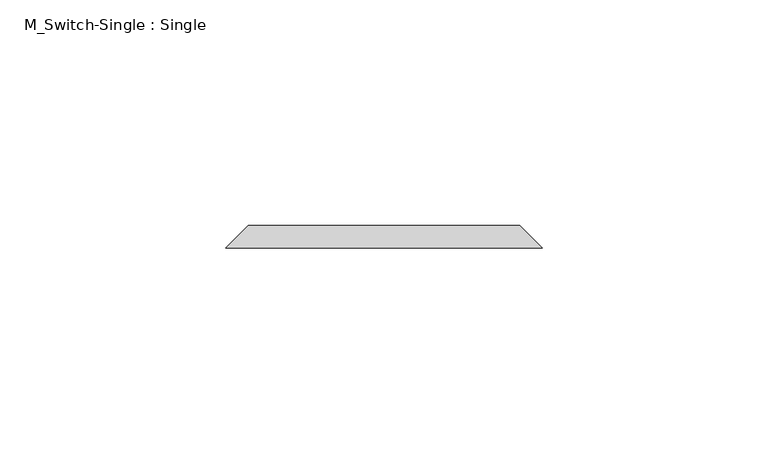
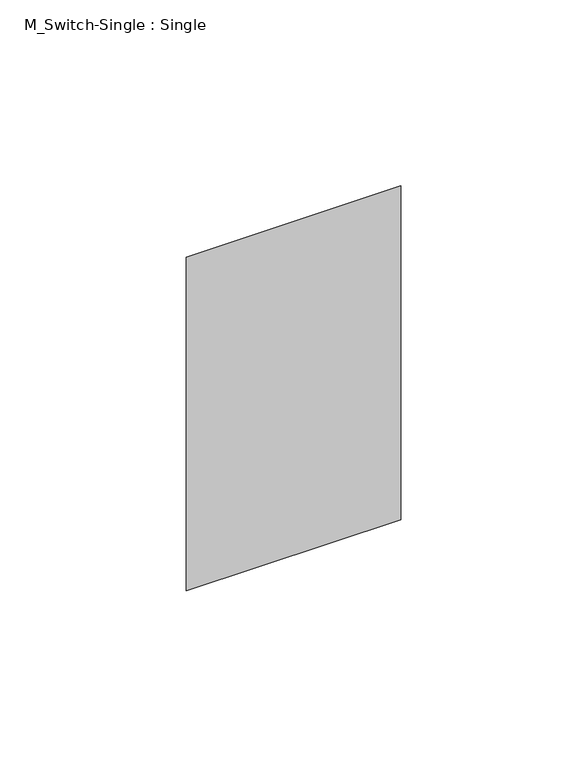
"""IFC4 building model written with IfcOpenShell, lengths in millimetres: proxy geometry, M_Switch-Single : Single."""

from ifc_helpers import new_model, si_unit, origin, place, context, project, spatial, faceted_brep, source, transform, mapped, element, save


def m_switch_single_single_5a78d6b5(model_context):
    return source(origin(), model_context, "Body", "Brep", [
        faceted_brep([(95.0, 57.0, 1252.5), (155.0, 57.0, 1252.5), (155.0, 57.0, 1147.5), (95.0, 57.0, 1147.5), (90.0, 52.0, 1257.5), (90.0, 52.0, 1142.5), (160.0, 52.0, 1142.5), (160.0, 52.0, 1257.5)], [[[0, 1, 2, 3]], [[4, 5, 6, 7]], [[4, 7, 1, 0]], [[7, 6, 2, 1]], [[6, 5, 3, 2]], [[5, 4, 0, 3]]]),
    ])


if __name__ == "__main__":
    model = new_model("IFC4")
    model_context = context("Model", 3, world=origin())
    ifc_project = project(units=[si_unit("LENGTHUNIT", "METRE", prefix="MILLI")], contexts=[model_context])
    site = spatial("IfcSite", under=ifc_project)
    building = spatial("IfcBuilding", under=site)
    placement = place(None, origin())
    m_switch_single_single_shape = m_switch_single_single_5a78d6b5(model_context)
    element("IfcBuildingElementProxy", 1, Name="M_Switch-Single : Single", ObjectType="M_Switch-Single : Single", at=placement, inside=building, context=model_context, shape_type="MappedRepresentation", body=[
        mapped(m_switch_single_single_shape, transform((0.0, 0.0, 0.0), x_axis=(1.0, 0.0, 0.0), y_axis=(0.0, 1.0, 0.0), z_axis=(0.0, 0.0, 1.0))),
    ])
    save(model, "model.ifc")
